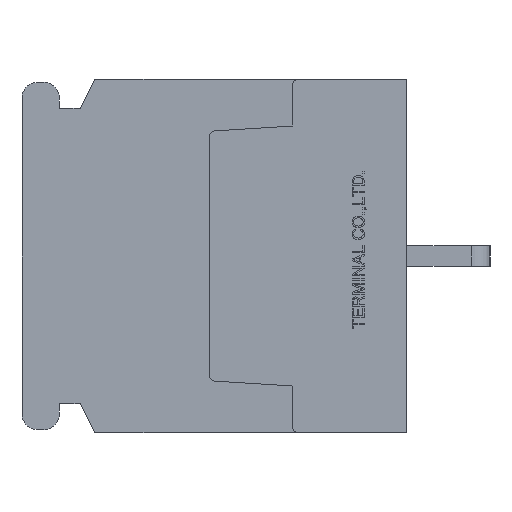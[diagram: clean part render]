
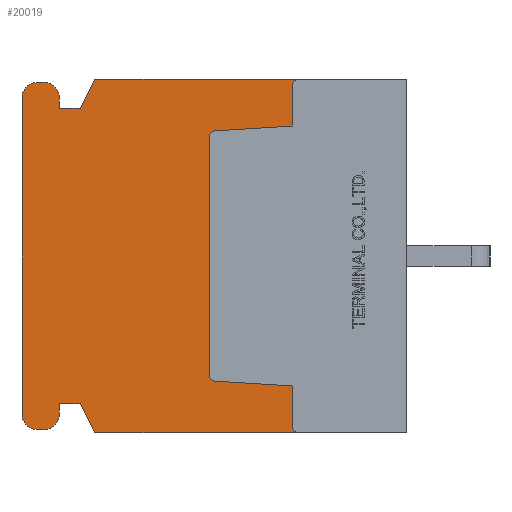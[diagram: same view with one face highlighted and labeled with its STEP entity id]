
A CAD part, left-side view. The second image highlights one B-rep face of the part: STEP entity #20019.
In plain terms, the highlighted planar face has unit normal (-1, 0, 0).
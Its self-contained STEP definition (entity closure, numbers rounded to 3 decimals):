
#460=CIRCLE('',#20484,0.3);
#461=CIRCLE('',#20486,0.3);
#462=CIRCLE('',#20490,0.3);
#463=CIRCLE('',#20493,0.3);
#892=CIRCLE('',#21653,0.75);
#893=CIRCLE('',#21654,0.75);
#894=CIRCLE('',#21655,0.75);
#895=CIRCLE('',#21656,0.75);
#1643=VERTEX_POINT('',#27951);
#1644=VERTEX_POINT('',#27952);
#1645=VERTEX_POINT('',#27957);
#1646=VERTEX_POINT('',#27961);
#1647=VERTEX_POINT('',#27962);
#1648=VERTEX_POINT('',#27967);
#1649=VERTEX_POINT('',#27971);
#1650=VERTEX_POINT('',#27975);
#1651=VERTEX_POINT('',#27979);
#1652=VERTEX_POINT('',#27983);
#2353=VERTEX_POINT('',#30213);
#2385=VERTEX_POINT('',#30284);
#2808=VERTEX_POINT('',#31787);
#2809=VERTEX_POINT('',#31789);
#2810=VERTEX_POINT('',#31791);
#2811=VERTEX_POINT('',#31793);
#2812=VERTEX_POINT('',#31795);
#2813=VERTEX_POINT('',#31797);
#2814=VERTEX_POINT('',#31799);
#2815=VERTEX_POINT('',#31801);
#2816=VERTEX_POINT('',#31803);
#2817=VERTEX_POINT('',#31805);
#2818=VERTEX_POINT('',#31807);
#2819=VERTEX_POINT('',#31809);
#3727=VECTOR('',#22474,1.);
#3733=VECTOR('',#22489,1.);
#3735=VECTOR('',#22492,1.);
#3738=VECTOR('',#22500,1.);
#3741=VECTOR('',#22508,1.);
#4405=VECTOR('',#24248,1.);
#4441=VECTOR('',#24286,1.);
#4868=VECTOR('',#25496,1.);
#4869=VECTOR('',#25497,1.);
#4870=VECTOR('',#25498,1.);
#4871=VECTOR('',#25501,1.);
#4872=VECTOR('',#25504,1.);
#4873=VECTOR('',#25507,1.);
#4874=VECTOR('',#25510,1.);
#4875=VECTOR('',#25511,1.);
#4876=VECTOR('',#25512,1.);
#5841=LINE('',#27950,#3727);
#5847=LINE('',#27966,#3733);
#5849=LINE('',#27970,#3735);
#5852=LINE('',#27978,#3738);
#5855=LINE('',#27986,#3741);
#6519=LINE('',#30214,#4405);
#6555=LINE('',#30283,#4441);
#6982=LINE('',#31786,#4868);
#6983=LINE('',#31788,#4869);
#6984=LINE('',#31790,#4870);
#6985=LINE('',#31794,#4871);
#6986=LINE('',#31798,#4872);
#6987=LINE('',#31802,#4873);
#6988=LINE('',#31806,#4874);
#6989=LINE('',#31808,#4875);
#6990=LINE('',#31810,#4876);
#8063=EDGE_CURVE('',#1643,#1644,#5841,.T.);
#8066=EDGE_CURVE('',#1645,#1643,#460,.T.);
#8068=EDGE_CURVE('',#1646,#1647,#461,.T.);
#8071=EDGE_CURVE('',#1648,#1646,#5847,.T.);
#8073=EDGE_CURVE('',#1649,#1648,#5849,.T.);
#8075=EDGE_CURVE('',#1650,#1649,#462,.T.);
#8077=EDGE_CURVE('',#1651,#1650,#5852,.T.);
#8079=EDGE_CURVE('',#1652,#1651,#463,.T.);
#8081=EDGE_CURVE('',#1644,#1652,#5855,.T.);
#9094=EDGE_CURVE('',#2353,#1647,#6519,.T.);
#9130=EDGE_CURVE('',#1645,#2385,#6555,.T.);
#9798=EDGE_CURVE('',#2808,#2353,#6982,.T.);
#9799=EDGE_CURVE('',#2809,#2808,#6983,.T.);
#9800=EDGE_CURVE('',#2810,#2809,#6984,.T.);
#9801=EDGE_CURVE('',#2811,#2810,#892,.T.);
#9802=EDGE_CURVE('',#2812,#2811,#6985,.T.);
#9803=EDGE_CURVE('',#2813,#2812,#893,.T.);
#9804=EDGE_CURVE('',#2814,#2813,#6986,.T.);
#9805=EDGE_CURVE('',#2815,#2814,#894,.T.);
#9806=EDGE_CURVE('',#2816,#2815,#6987,.T.);
#9807=EDGE_CURVE('',#2817,#2816,#895,.T.);
#9808=EDGE_CURVE('',#2818,#2817,#6988,.T.);
#9809=EDGE_CURVE('',#2819,#2818,#6989,.T.);
#9810=EDGE_CURVE('',#2385,#2819,#6990,.T.);
#15017=ORIENTED_EDGE('',*,*,#8068,.T.);
#15018=ORIENTED_EDGE('',*,*,#9094,.F.);
#15019=ORIENTED_EDGE('',*,*,#9798,.F.);
#15020=ORIENTED_EDGE('',*,*,#9799,.F.);
#15021=ORIENTED_EDGE('',*,*,#9800,.F.);
#15022=ORIENTED_EDGE('',*,*,#9801,.F.);
#15023=ORIENTED_EDGE('',*,*,#9802,.F.);
#15024=ORIENTED_EDGE('',*,*,#9803,.F.);
#15025=ORIENTED_EDGE('',*,*,#9804,.F.);
#15026=ORIENTED_EDGE('',*,*,#9805,.F.);
#15027=ORIENTED_EDGE('',*,*,#9806,.F.);
#15028=ORIENTED_EDGE('',*,*,#9807,.F.);
#15029=ORIENTED_EDGE('',*,*,#9808,.F.);
#15030=ORIENTED_EDGE('',*,*,#9809,.F.);
#15031=ORIENTED_EDGE('',*,*,#9810,.F.);
#15032=ORIENTED_EDGE('',*,*,#9130,.F.);
#15033=ORIENTED_EDGE('',*,*,#8066,.T.);
#15034=ORIENTED_EDGE('',*,*,#8063,.T.);
#15035=ORIENTED_EDGE('',*,*,#8081,.T.);
#15036=ORIENTED_EDGE('',*,*,#8079,.T.);
#15037=ORIENTED_EDGE('',*,*,#8077,.T.);
#15038=ORIENTED_EDGE('',*,*,#8075,.T.);
#15039=ORIENTED_EDGE('',*,*,#8073,.T.);
#15040=ORIENTED_EDGE('',*,*,#8071,.T.);
#17536=EDGE_LOOP('',(#15017,#15018,#15019,#15020,#15021,#15022,#15023,#15024,
#15025,#15026,#15027,#15028,#15029,#15030,#15031,#15032,#15033,#15034,#15035,
#15036,#15037,#15038,#15039,#15040));
#18826=FACE_BOUND('',#17536,.T.);
#20019=ADVANCED_FACE('',(#18826),#34377,.F.);
#20484=AXIS2_PLACEMENT_3D('',#27956,#22479,#22480);
#20486=AXIS2_PLACEMENT_3D('',#27960,#22484,#22485);
#20490=AXIS2_PLACEMENT_3D('',#27974,#22496,#22497);
#20493=AXIS2_PLACEMENT_3D('',#27982,#22504,#22505);
#21652=AXIS2_PLACEMENT_3D('',#31785,#25495,$);
#21653=AXIS2_PLACEMENT_3D('',#31792,#25499,#25500);
#21654=AXIS2_PLACEMENT_3D('',#31796,#25502,#25503);
#21655=AXIS2_PLACEMENT_3D('',#31800,#25505,#25506);
#21656=AXIS2_PLACEMENT_3D('',#31804,#25508,#25509);
#22474=DIRECTION('',(0.,0.,1.));
#22479=DIRECTION('',(1.,0.,0.));
#22480=DIRECTION('',(0.,0.,-0.3));
#22484=DIRECTION('',(1.,0.,0.));
#22485=DIRECTION('',(0.,0.,-0.3));
#22489=DIRECTION('',(0.,0.,1.));
#22492=DIRECTION('',(0.,-0.998,0.062));
#22496=DIRECTION('',(1.,0.,0.));
#22497=DIRECTION('',(0.,0.,-0.3));
#22500=DIRECTION('',(0.,0.,1.));
#22504=DIRECTION('',(1.,0.,0.));
#22505=DIRECTION('',(0.,0.,-0.3));
#22508=DIRECTION('',(0.,0.998,0.062));
#24248=DIRECTION('',(0.,-1.,0.));
#24286=DIRECTION('',(0.,1.,0.));
#25495=DIRECTION('',(1.,0.,0.));
#25496=DIRECTION('',(0.,-0.447,0.894));
#25497=DIRECTION('',(0.,-1.,0.));
#25498=DIRECTION('',(0.,0.,-1.));
#25499=DIRECTION('',(1.,0.,0.));
#25500=DIRECTION('',(0.,0.,-0.75));
#25501=DIRECTION('',(0.,-1.,0.));
#25502=DIRECTION('',(1.,0.,0.));
#25503=DIRECTION('',(0.,0.,-0.75));
#25504=DIRECTION('',(0.,0.,1.));
#25505=DIRECTION('',(1.,0.,0.));
#25506=DIRECTION('',(0.,0.,-0.75));
#25507=DIRECTION('',(0.,1.,0.));
#25508=DIRECTION('',(1.,0.,0.));
#25509=DIRECTION('',(0.,0.,-0.75));
#25510=DIRECTION('',(0.,0.,-1.));
#25511=DIRECTION('',(0.,1.,0.));
#25512=DIRECTION('',(0.,0.447,0.894));
#27950=CARTESIAN_POINT('',(0.,5.5,-3.613));
#27951=CARTESIAN_POINT('',(0.,5.5,-8.2));
#27952=CARTESIAN_POINT('',(0.,5.5,-6.25));
#27956=CARTESIAN_POINT('',(0.,5.2,-8.2));
#27957=CARTESIAN_POINT('',(0.,5.2,-8.5));
#27960=CARTESIAN_POINT('',(0.,5.2,8.2));
#27961=CARTESIAN_POINT('',(0.,5.5,8.2));
#27962=CARTESIAN_POINT('',(0.,5.2,8.5));
#27966=CARTESIAN_POINT('',(0.,5.5,3.612));
#27967=CARTESIAN_POINT('',(0.,5.5,6.25));
#27970=CARTESIAN_POINT('',(0.,8.598,6.056));
#27971=CARTESIAN_POINT('',(0.,9.219,6.018));
#27974=CARTESIAN_POINT('',(0.,9.2,5.718));
#27975=CARTESIAN_POINT('',(0.,9.5,5.718));
#27978=CARTESIAN_POINT('',(0.,9.5,0.));
#27979=CARTESIAN_POINT('',(0.,9.5,-5.718));
#27982=CARTESIAN_POINT('',(0.,9.2,-5.718));
#27983=CARTESIAN_POINT('',(0.,9.219,-6.018));
#27986=CARTESIAN_POINT('',(0.,8.598,-6.056));
#30213=CARTESIAN_POINT('',(0.,15.,8.5));
#30214=CARTESIAN_POINT('',(0.,15.,8.5));
#30283=CARTESIAN_POINT('',(0.,0.,-8.5));
#30284=CARTESIAN_POINT('',(0.,15.,-8.5));
#31785=CARTESIAN_POINT('',(0.,9.463,0.));
#31786=CARTESIAN_POINT('',(0.,15.7,7.1));
#31787=CARTESIAN_POINT('',(0.,15.7,7.1));
#31788=CARTESIAN_POINT('',(0.,16.7,7.1));
#31789=CARTESIAN_POINT('',(0.,16.7,7.1));
#31790=CARTESIAN_POINT('',(0.,16.7,7.6));
#31791=CARTESIAN_POINT('',(0.,16.7,7.6));
#31792=CARTESIAN_POINT('',(0.,17.45,7.6));
#31793=CARTESIAN_POINT('',(0.,17.45,8.35));
#31794=CARTESIAN_POINT('',(0.,17.75,8.35));
#31795=CARTESIAN_POINT('',(0.,17.75,8.35));
#31796=CARTESIAN_POINT('',(0.,17.75,7.6));
#31797=CARTESIAN_POINT('',(0.,18.5,7.6));
#31798=CARTESIAN_POINT('',(0.,18.5,-7.6));
#31799=CARTESIAN_POINT('',(0.,18.5,-7.6));
#31800=CARTESIAN_POINT('',(0.,17.75,-7.6));
#31801=CARTESIAN_POINT('',(0.,17.75,-8.35));
#31802=CARTESIAN_POINT('',(0.,17.45,-8.35));
#31803=CARTESIAN_POINT('',(0.,17.45,-8.35));
#31804=CARTESIAN_POINT('',(0.,17.45,-7.6));
#31805=CARTESIAN_POINT('',(0.,16.7,-7.6));
#31806=CARTESIAN_POINT('',(0.,16.7,-7.1));
#31807=CARTESIAN_POINT('',(0.,16.7,-7.1));
#31808=CARTESIAN_POINT('',(0.,15.7,-7.1));
#31809=CARTESIAN_POINT('',(0.,15.7,-7.1));
#31810=CARTESIAN_POINT('',(0.,15.,-8.5));
#34377=PLANE('',#21652);
